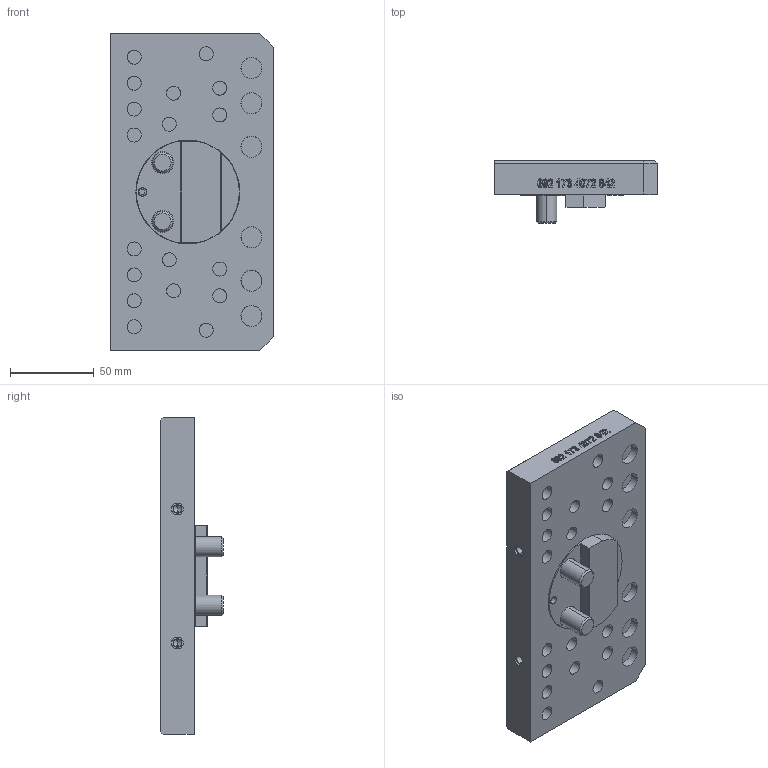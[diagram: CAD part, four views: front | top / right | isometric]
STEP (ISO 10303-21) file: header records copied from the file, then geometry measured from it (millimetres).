
FILE_DESCRIPTION (( 'STEP AP214' ), '1' );
FILE_NAME ('6921734072842.STEP', '2018-10-09T11:24:13', ( '' ), ( '' ), 'SwSTEP 2.0', 'SolidWorks 2016', '' );
FILE_SCHEMA (( 'AUTOMOTIVE_DESIGN' ));
Length unit declared in the file: millimetre
Products named in the file (8): 8016200068000_DIN 914 - M6 x 8-N; 8064909050000_Kugel 5; 6921884073800; 6921734072800; 6921885011000; 8006101225050_<standard>; 6921734072842; 6933911010000
Assembly tree (30 placements, depth 2):
  6921734072842
    6921884073800
    6921734072800
    6921885011000  x6
    6933911010000  x18
    8064909050000_Kugel 5
    8016200068000_DIN 914 - M6 x 8-N
    8006101225050_<standard>  x2
Bounding box: 97 x 37.33 x 189 mm (x, y, z)
Volume: 341908.2 mm3; surface area: 95055.1 mm2
Topology: 30 solids, 30 shells, 1423 faces, 3357 edges, 2048 vertices
Faces by surface type: plane 598, cylinder 360, cone 312, bspline 139, torus 12, sphere 2
Entity records: 30282 total; most frequent: CARTESIAN_POINT 12192, ORIENTED_EDGE 3532, DIRECTION 3142, EDGE_CURVE 1766, VERTEX_POINT 1144, AXIS2_PLACEMENT_3D 1132, LINE 878, VECTOR 878
